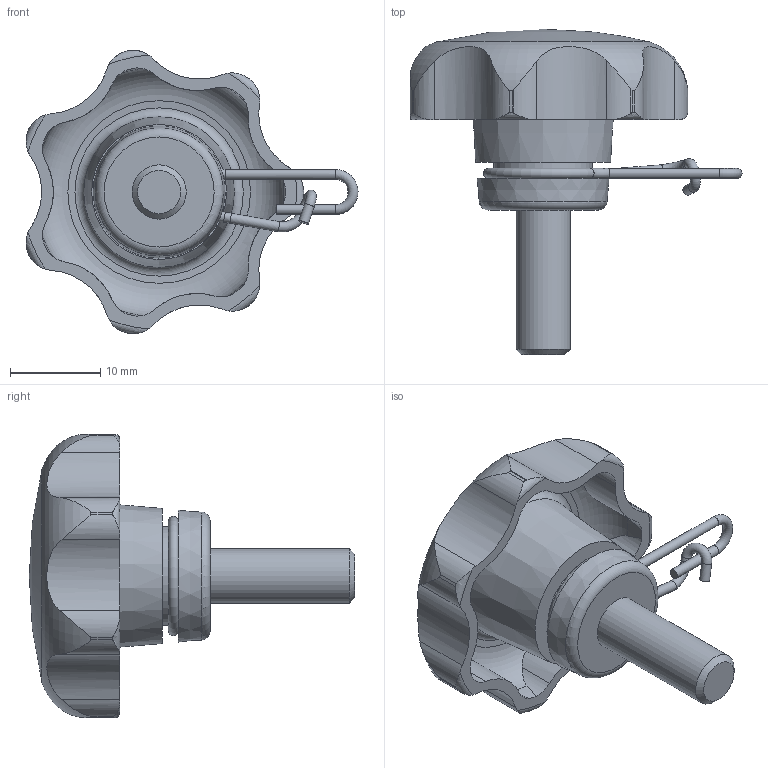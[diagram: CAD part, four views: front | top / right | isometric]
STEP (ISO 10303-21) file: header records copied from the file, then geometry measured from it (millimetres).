
FILE_DESCRIPTION( ( 'STEP AP203' ), '1' );
FILE_NAME( 'C:/Temp/Ganter_Step_05_03_2020/data/2_2/gn_6336_13/gn_6336_13_2/Star knob GN 6336.13-32-M6-16-A.stp', '2020-03-05T12:11:05', ( 'License CC BY-ND 4.0' ), ( 'CADENAS' ), ' ', 'PARTsolutions', ' ' );
FILE_SCHEMA( ( 'CONFIG_CONTROL_DESIGN' ) );
Length unit declared in the file: millimetre
Products named in the file (1): _Star knob GN 6336.13-32-M6-16-A
Bounding box: 36.73 x 36 x 31.36 mm (x, y, z)
Volume: 6144.6 mm3; surface area: 3819.4 mm2
Topology: 1 solids, 1 shells, 99 faces, 272 edges, 177 vertices
Faces by surface type: cylinder 61, torus 18, cone 11, plane 8, sphere 1
Full cylindrical faces by diameter (mm): 1.1 x4, 1.11 x1, 6 x1, 10.9 x1
Entity records: 3909 total; most frequent: CARTESIAN_POINT 1557, ORIENTED_EDGE 482, DIRECTION 461, EDGE_CURVE 241, AXIS2_PLACEMENT_3D 207, VERTEX_POINT 171, EDGE_LOOP 125, FACE_OUTER_BOUND 116
